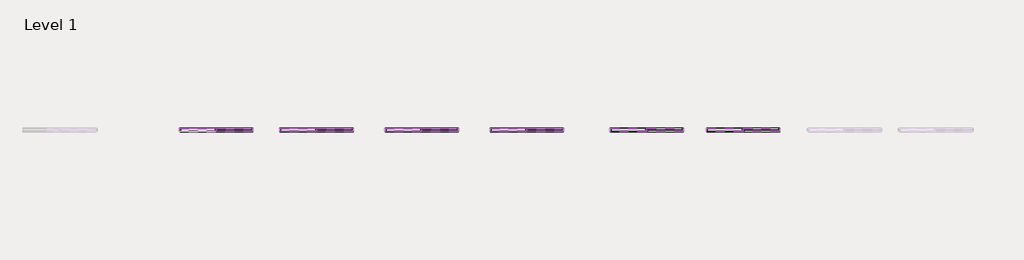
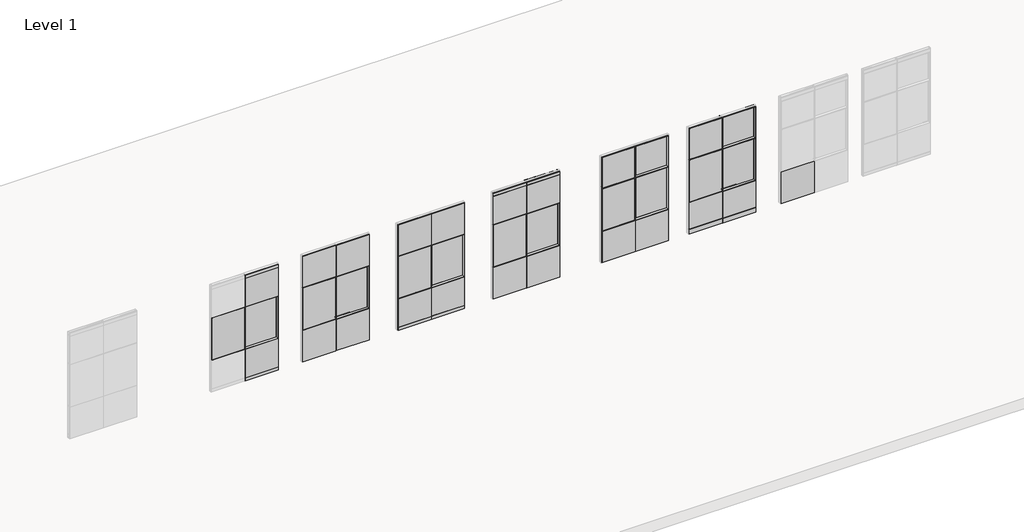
# One storey, part 11 of 22: 107 proxies.
"""IFC4 building model written with IfcOpenShell, lengths in millimetres."""

from ifc_helpers import new_model, si_unit, origin, place, context, project, spatial, transform, mapped, element, save
from components import fascia_teknion_ceiling_and_base_fpb1_0bfeef01, fascia_teknion_ceiling_and_base_fpb1_c09701a2, fascia_teknion_ceiling_and_base_fpb1_836afdf3, fascia_teknion_ceiling_and_base_fpb1_2ed09321, frame_teknion_horizontal_rail_5872ae1a, glass_fascia_6f81bcf7, glass_fascia_75a64c95, level_ii_d7c51a2e, level_ii_6986000c, panel_fascia_teknion_level_i_3c7f3a23, panel_fascia_teknion_level_i_3efb392c, panel_fascia_teknion_level_iii_5cb2406b, panel_fascia_teknion_level_iii_b597021d, panel_fascia_teknion_mid_glass_level_i_6372ec43, panel_fascia_teknion_mid_glass_level_i_aef44225, panel_fascia_teknion_mid_glass_level_i_3173a81b, panel_fascia_teknion_mid_glass_level_i_dc0ea009, working_wall_monolithic_level_i_ddf61f7f, working_wall_monolithic_level_i_0fd3c68e, panel_fascia_teknion_mid_glass_level_i_f6f85d3a, working_wall_monolithic_level_i_49ea217e, panel_fascia_teknion_mid_glass_level_iii_33d6d773, panel_fascia_teknion_mid_glass_level_iii_d39c1b17

model = new_model("IFC4")

# Units and contexts
model_context = context("Model", 3, world=origin())
ifc_project = project(units=[si_unit("LENGTHUNIT", "METRE", prefix="MILLI")], contexts=[model_context])

# Site, building, storey
site = spatial("IfcSite", under=ifc_project)
building = spatial("IfcBuilding", under=site)
storey = spatial("IfcBuildingStorey", under=building, Name="Level 1", Elevation=0.0)

# Proxies
placement = place(None, origin())
fascia_teknion_ceiling_and_base_fpb1_shape = fascia_teknion_ceiling_and_base_fpb1_0bfeef01(model_context)
element("IfcBuildingElementProxy", 1, Name="Fascia-Teknion-Ceiling_and_Base : FPB1", ObjectType="Fascia-Teknion-Ceiling_and_Base : FPB1", at=placement, inside=storey, context=model_context, shape_type="MappedRepresentation", body=[
    mapped(fascia_teknion_ceiling_and_base_fpb1_shape, transform((-10904.901085, 1762.344815, 15.875), x_axis=(1.0, 0.0, 0.0), y_axis=(0.0, 1.0, 0.0), z_axis=(0.0, 0.0, 1.0))),
])
element("IfcBuildingElementProxy", 2, Name="Fascia-Teknion-Ceiling_and_Base : FPB1", ObjectType="Fascia-Teknion-Ceiling_and_Base : FPB1", at=placement, inside=storey, context=model_context, shape_type="MappedRepresentation", body=[
    mapped(fascia_teknion_ceiling_and_base_fpb1_shape, transform((-10004.4909288, 1762.344815, 15.875), x_axis=(1.0, 0.0, 0.0), y_axis=(0.0, 1.0, 0.0), z_axis=(0.0, 0.0, 1.0))),
])
fascia_teknion_ceiling_and_base_fpb1_2_shape = fascia_teknion_ceiling_and_base_fpb1_c09701a2(model_context)
element("IfcBuildingElementProxy", 3, Name="Fascia-Teknion-Ceiling_and_Base : FPB1", ObjectType="Fascia-Teknion-Ceiling_and_Base : FPB1", at=placement, inside=storey, context=model_context, shape_type="MappedRepresentation", body=[
    mapped(fascia_teknion_ceiling_and_base_fpb1_2_shape, transform((-10904.901085, 1862.357315, 15.875), x_axis=(1.0, 0.0, 0.0), y_axis=(0.0, 1.0, 0.0), z_axis=(0.0, 0.0, 1.0))),
])
element("IfcBuildingElementProxy", 4, Name="Fascia-Teknion-Ceiling_and_Base : FPB1", ObjectType="Fascia-Teknion-Ceiling_and_Base : FPB1", at=placement, inside=storey, context=model_context, shape_type="MappedRepresentation", body=[
    mapped(fascia_teknion_ceiling_and_base_fpb1_2_shape, transform((-10004.4909288, 1862.357315, 15.875), x_axis=(1.0, 0.0, 0.0), y_axis=(0.0, 1.0, 0.0), z_axis=(0.0, 0.0, 1.0))),
])
fascia_teknion_ceiling_and_base_fpb1_3_shape = fascia_teknion_ceiling_and_base_fpb1_836afdf3(model_context)
element("IfcBuildingElementProxy", 5, Name="Fascia-Teknion-Ceiling_and_Base : FPB1", ObjectType="Fascia-Teknion-Ceiling_and_Base : FPB1", at=placement, inside=storey, context=model_context, shape_type="MappedRepresentation", body=[
    mapped(fascia_teknion_ceiling_and_base_fpb1_3_shape, transform((-18786.7184902, 1762.344815, 15.875), x_axis=(1.0, 0.0, 0.0), y_axis=(0.0, 1.0, 0.0), z_axis=(0.0, 0.0, 1.0))),
])
element("IfcBuildingElementProxy", 6, Name="Fascia-Teknion-Ceiling_and_Base : FPB1", ObjectType="Fascia-Teknion-Ceiling_and_Base : FPB1", at=placement, inside=storey, context=model_context, shape_type="MappedRepresentation", body=[
    mapped(fascia_teknion_ceiling_and_base_fpb1_3_shape, transform((-22928.208334, 1762.344815, 15.875), x_axis=(1.0, 0.0, 0.0), y_axis=(0.0, 1.0, 0.0), z_axis=(0.0, 0.0, 1.0))),
])
element("IfcBuildingElementProxy", 7, Name="Fascia-Teknion-Ceiling_and_Base : FPB1", ObjectType="Fascia-Teknion-Ceiling_and_Base : FPB1", at=placement, inside=storey, context=model_context, shape_type="MappedRepresentation", body=[
    mapped(fascia_teknion_ceiling_and_base_fpb1_3_shape, transform((-17886.308334, 1762.344815, 15.875), x_axis=(1.0, 0.0, 0.0), y_axis=(0.0, 1.0, 0.0), z_axis=(0.0, 0.0, 1.0))),
])
fascia_teknion_ceiling_and_base_fpb1_4_shape = fascia_teknion_ceiling_and_base_fpb1_2ed09321(model_context)
element("IfcBuildingElementProxy", 8, Name="Fascia-Teknion-Ceiling_and_Base : FPB1", ObjectType="Fascia-Teknion-Ceiling_and_Base : FPB1", at=placement, inside=storey, context=model_context, shape_type="MappedRepresentation", body=[
    mapped(fascia_teknion_ceiling_and_base_fpb1_4_shape, transform((-23828.6184902, 1862.357315, 15.875), x_axis=(1.0, 0.0, 0.0), y_axis=(0.0, 1.0, 0.0), z_axis=(0.0, 0.0, 1.0))),
])
element("IfcBuildingElementProxy", 9, Name="Fascia-Teknion-Ceiling_and_Base : FPB1", ObjectType="Fascia-Teknion-Ceiling_and_Base : FPB1", at=placement, inside=storey, context=model_context, shape_type="MappedRepresentation", body=[
    mapped(fascia_teknion_ceiling_and_base_fpb1_4_shape, transform((-18786.7184902, 1862.357315, 15.875), x_axis=(1.0, 0.0, 0.0), y_axis=(0.0, 1.0, 0.0), z_axis=(0.0, 0.0, 1.0))),
])
element("IfcBuildingElementProxy", 10, Name="Fascia-Teknion-Ceiling_and_Base : FPB1", ObjectType="Fascia-Teknion-Ceiling_and_Base : FPB1", at=placement, inside=storey, context=model_context, shape_type="MappedRepresentation", body=[
    mapped(fascia_teknion_ceiling_and_base_fpb1_4_shape, transform((-22928.208334, 1862.357315, 15.875), x_axis=(1.0, 0.0, 0.0), y_axis=(0.0, 1.0, 0.0), z_axis=(0.0, 0.0, 1.0))),
])
element("IfcBuildingElementProxy", 11, Name="Fascia-Teknion-Ceiling_and_Base : FPB1", ObjectType="Fascia-Teknion-Ceiling_and_Base : FPB1", at=placement, inside=storey, context=model_context, shape_type="MappedRepresentation", body=[
    mapped(fascia_teknion_ceiling_and_base_fpb1_4_shape, transform((-17886.308334, 1862.357315, 15.875), x_axis=(1.0, 0.0, 0.0), y_axis=(0.0, 1.0, 0.0), z_axis=(0.0, 0.0, 1.0))),
])
element("IfcBuildingElementProxy", 12, Name="Fascia-Teknion-Ceiling_and_Base : FPC", ObjectType="Fascia-Teknion-Ceiling_and_Base : FPC", at=placement, inside=storey, context=model_context, shape_type="MappedRepresentation", body=[
    mapped(fascia_teknion_ceiling_and_base_fpb1_3_shape, transform((-16208.6184902, 1762.344815, 2950.845), x_axis=(1.0, 0.0, 0.0), y_axis=(0.0, 1.0, 0.0), z_axis=(0.0, 0.0, 1.0))),
])
element("IfcBuildingElementProxy", 13, Name="Fascia-Teknion-Ceiling_and_Base : FPC", ObjectType="Fascia-Teknion-Ceiling_and_Base : FPC", at=placement, inside=storey, context=model_context, shape_type="MappedRepresentation", body=[
    mapped(fascia_teknion_ceiling_and_base_fpb1_3_shape, transform((-22928.208334, 1762.344815, 2950.845), x_axis=(1.0, 0.0, 0.0), y_axis=(0.0, 1.0, 0.0), z_axis=(0.0, 0.0, 1.0))),
])
element("IfcBuildingElementProxy", 14, Name="Fascia-Teknion-Ceiling_and_Base : FPC", ObjectType="Fascia-Teknion-Ceiling_and_Base : FPC", at=placement, inside=storey, context=model_context, shape_type="MappedRepresentation", body=[
    mapped(fascia_teknion_ceiling_and_base_fpb1_3_shape, transform((-15308.208334, 1762.344815, 2950.845), x_axis=(1.0, 0.0, 0.0), y_axis=(0.0, 1.0, 0.0), z_axis=(0.0, 0.0, 1.0))),
])
element("IfcBuildingElementProxy", 15, Name="Fascia-Teknion-Ceiling_and_Base : FPC", ObjectType="Fascia-Teknion-Ceiling_and_Base : FPC", at=placement, inside=storey, context=model_context, shape_type="MappedRepresentation", body=[
    mapped(fascia_teknion_ceiling_and_base_fpb1_4_shape, transform((-23828.6184902, 1862.357315, 2950.845), x_axis=(1.0, 0.0, 0.0), y_axis=(0.0, 1.0, 0.0), z_axis=(0.0, 0.0, 1.0))),
])
element("IfcBuildingElementProxy", 16, Name="Fascia-Teknion-Ceiling_and_Base : FPC", ObjectType="Fascia-Teknion-Ceiling_and_Base : FPC", at=placement, inside=storey, context=model_context, shape_type="MappedRepresentation", body=[
    mapped(fascia_teknion_ceiling_and_base_fpb1_4_shape, transform((-16208.6184902, 1862.357315, 2950.845), x_axis=(1.0, 0.0, 0.0), y_axis=(0.0, 1.0, 0.0), z_axis=(0.0, 0.0, 1.0))),
])
element("IfcBuildingElementProxy", 17, Name="Fascia-Teknion-Ceiling_and_Base : FPC", ObjectType="Fascia-Teknion-Ceiling_and_Base : FPC", at=placement, inside=storey, context=model_context, shape_type="MappedRepresentation", body=[
    mapped(fascia_teknion_ceiling_and_base_fpb1_4_shape, transform((-22928.208334, 1862.357315, 2950.845), x_axis=(1.0, 0.0, 0.0), y_axis=(0.0, 1.0, 0.0), z_axis=(0.0, 0.0, 1.0))),
])
element("IfcBuildingElementProxy", 18, Name="Fascia-Teknion-Ceiling_and_Base : FPC", ObjectType="Fascia-Teknion-Ceiling_and_Base : FPC", at=placement, inside=storey, context=model_context, shape_type="MappedRepresentation", body=[
    mapped(fascia_teknion_ceiling_and_base_fpb1_4_shape, transform((-15308.208334, 1862.357315, 2950.845), x_axis=(1.0, 0.0, 0.0), y_axis=(0.0, 1.0, 0.0), z_axis=(0.0, 0.0, 1.0))),
])
frame_teknion_horizontal_rail_shape = frame_teknion_horizontal_rail_5872ae1a(model_context)
element("IfcBuildingElementProxy", 19, Name="Frame-Teknion-Horizontal_Rail : FPKK", ObjectType="Frame-Teknion-Horizontal_Rail : FPKK", at=placement, inside=storey, context=model_context, shape_type="MappedRepresentation", body=[
    mapped(frame_teknion_horizontal_rail_shape, transform((-21364.8184902, 1812.351065, 917.575), x_axis=(1.0, 0.0, 0.0), y_axis=(0.0, 1.0, 0.0), z_axis=(0.0, 0.0, 1.0))),
])
element("IfcBuildingElementProxy", 20, Name="Frame-Teknion-Horizontal_Rail : FPKK", ObjectType="Frame-Teknion-Horizontal_Rail : FPKK", at=placement, inside=storey, context=model_context, shape_type="MappedRepresentation", body=[
    mapped(frame_teknion_horizontal_rail_shape, transform((-21364.8184902, 1812.351065, 2136.775), x_axis=(1.0, 0.0, 0.0), y_axis=(0.0, 1.0, 0.0), z_axis=(0.0, 0.0, 1.0))),
])
element("IfcBuildingElementProxy", 21, Name="Frame-Teknion-Horizontal_Rail : FPKK", ObjectType="Frame-Teknion-Horizontal_Rail : FPKK", at=placement, inside=storey, context=model_context, shape_type="MappedRepresentation", body=[
    mapped(frame_teknion_horizontal_rail_shape, transform((-18786.7184902, 1812.351065, 917.575), x_axis=(1.0, 0.0, 0.0), y_axis=(0.0, 1.0, 0.0), z_axis=(0.0, 0.0, 1.0))),
])
element("IfcBuildingElementProxy", 22, Name="Frame-Teknion-Horizontal_Rail : FPKK", ObjectType="Frame-Teknion-Horizontal_Rail : FPKK", at=placement, inside=storey, context=model_context, shape_type="MappedRepresentation", body=[
    mapped(frame_teknion_horizontal_rail_shape, transform((-18786.7184902, 1812.351065, 2136.775), x_axis=(1.0, 0.0, 0.0), y_axis=(0.0, 1.0, 0.0), z_axis=(0.0, 0.0, 1.0))),
])
element("IfcBuildingElementProxy", 23, Name="Frame-Teknion-Horizontal_Rail : FPKK", ObjectType="Frame-Teknion-Horizontal_Rail : FPKK", at=placement, inside=storey, context=model_context, shape_type="MappedRepresentation", body=[
    mapped(frame_teknion_horizontal_rail_shape, transform((-16208.6184902, 1812.351065, 917.575), x_axis=(1.0, 0.0, 0.0), y_axis=(0.0, 1.0, 0.0), z_axis=(0.0, 0.0, 1.0))),
])
element("IfcBuildingElementProxy", 24, Name="Frame-Teknion-Horizontal_Rail : FPKK", ObjectType="Frame-Teknion-Horizontal_Rail : FPKK", at=placement, inside=storey, context=model_context, shape_type="MappedRepresentation", body=[
    mapped(frame_teknion_horizontal_rail_shape, transform((-16208.6184902, 1812.351065, 2136.775), x_axis=(1.0, 0.0, 0.0), y_axis=(0.0, 1.0, 0.0), z_axis=(0.0, 0.0, 1.0))),
])
element("IfcBuildingElementProxy", 25, Name="Frame-Teknion-Horizontal_Rail : FPKK", ObjectType="Frame-Teknion-Horizontal_Rail : FPKK", at=placement, inside=storey, context=model_context, shape_type="MappedRepresentation", body=[
    mapped(frame_teknion_horizontal_rail_shape, transform((-16208.6184902, 1812.351065, 2947.543), x_axis=(1.0, 0.0, 0.0), y_axis=(0.0, 1.0, 0.0), z_axis=(0.0, 0.0, 1.0))),
])
element("IfcBuildingElementProxy", 26, Name="Frame-Teknion-Horizontal_Rail : FPKK", ObjectType="Frame-Teknion-Horizontal_Rail : FPKK", at=placement, inside=storey, context=model_context, shape_type="MappedRepresentation", body=[
    mapped(frame_teknion_horizontal_rail_shape, transform((-22928.208334, 1812.351065, 917.575), x_axis=(1.0, 0.0, 0.0), y_axis=(0.0, 1.0, 0.0), z_axis=(0.0, 0.0, 1.0))),
])
element("IfcBuildingElementProxy", 27, Name="Frame-Teknion-Horizontal_Rail : FPKK", ObjectType="Frame-Teknion-Horizontal_Rail : FPKK", at=placement, inside=storey, context=model_context, shape_type="MappedRepresentation", body=[
    mapped(frame_teknion_horizontal_rail_shape, transform((-22928.208334, 1812.351065, 2136.775), x_axis=(1.0, 0.0, 0.0), y_axis=(0.0, 1.0, 0.0), z_axis=(0.0, 0.0, 1.0))),
])
element("IfcBuildingElementProxy", 28, Name="Frame-Teknion-Horizontal_Rail : FPKK", ObjectType="Frame-Teknion-Horizontal_Rail : FPKK", at=placement, inside=storey, context=model_context, shape_type="MappedRepresentation", body=[
    mapped(frame_teknion_horizontal_rail_shape, transform((-20464.408334, 1812.351065, 917.575), x_axis=(1.0, 0.0, 0.0), y_axis=(0.0, 1.0, 0.0), z_axis=(0.0, 0.0, 1.0))),
])
element("IfcBuildingElementProxy", 29, Name="Frame-Teknion-Horizontal_Rail : FPKK", ObjectType="Frame-Teknion-Horizontal_Rail : FPKK", at=placement, inside=storey, context=model_context, shape_type="MappedRepresentation", body=[
    mapped(frame_teknion_horizontal_rail_shape, transform((-20464.408334, 1812.351065, 2136.775), x_axis=(1.0, 0.0, 0.0), y_axis=(0.0, 1.0, 0.0), z_axis=(0.0, 0.0, 1.0))),
])
element("IfcBuildingElementProxy", 30, Name="Frame-Teknion-Horizontal_Rail : FPKK", ObjectType="Frame-Teknion-Horizontal_Rail : FPKK", at=placement, inside=storey, context=model_context, shape_type="MappedRepresentation", body=[
    mapped(frame_teknion_horizontal_rail_shape, transform((-17886.308334, 1812.351065, 917.575), x_axis=(1.0, 0.0, 0.0), y_axis=(0.0, 1.0, 0.0), z_axis=(0.0, 0.0, 1.0))),
])
element("IfcBuildingElementProxy", 31, Name="Frame-Teknion-Horizontal_Rail : FPKK", ObjectType="Frame-Teknion-Horizontal_Rail : FPKK", at=placement, inside=storey, context=model_context, shape_type="MappedRepresentation", body=[
    mapped(frame_teknion_horizontal_rail_shape, transform((-17886.308334, 1812.351065, 2136.775), x_axis=(1.0, 0.0, 0.0), y_axis=(0.0, 1.0, 0.0), z_axis=(0.0, 0.0, 1.0))),
])
element("IfcBuildingElementProxy", 32, Name="Frame-Teknion-Horizontal_Rail : FPKK", ObjectType="Frame-Teknion-Horizontal_Rail : FPKK", at=placement, inside=storey, context=model_context, shape_type="MappedRepresentation", body=[
    mapped(frame_teknion_horizontal_rail_shape, transform((-15308.208334, 1812.351065, 917.575), x_axis=(1.0, 0.0, 0.0), y_axis=(0.0, 1.0, 0.0), z_axis=(0.0, 0.0, 1.0))),
])
element("IfcBuildingElementProxy", 33, Name="Frame-Teknion-Horizontal_Rail : FPKK", ObjectType="Frame-Teknion-Horizontal_Rail : FPKK", at=placement, inside=storey, context=model_context, shape_type="MappedRepresentation", body=[
    mapped(frame_teknion_horizontal_rail_shape, transform((-15308.208334, 1812.351065, 2136.775), x_axis=(1.0, 0.0, 0.0), y_axis=(0.0, 1.0, 0.0), z_axis=(0.0, 0.0, 1.0))),
])
element("IfcBuildingElementProxy", 34, Name="Frame-Teknion-Horizontal_Rail : FPKK", ObjectType="Frame-Teknion-Horizontal_Rail : FPKK", at=placement, inside=storey, context=model_context, shape_type="MappedRepresentation", body=[
    mapped(frame_teknion_horizontal_rail_shape, transform((-15308.208334, 1812.351065, 2947.543), x_axis=(1.0, 0.0, 0.0), y_axis=(0.0, 1.0, 0.0), z_axis=(0.0, 0.0, 1.0))),
])
element("IfcBuildingElementProxy", 35, Name="Frame-Teknion-Horizontal_Rail : FPKK", ObjectType="Frame-Teknion-Horizontal_Rail : FPKK", at=placement, inside=storey, context=model_context, shape_type="MappedRepresentation", body=[
    mapped(frame_teknion_horizontal_rail_shape, transform((-18786.7184902, 1812.351065, 100.33), x_axis=(1.0, 0.0, 0.0), y_axis=(0.0, 1.0, 0.0), z_axis=(0.0, 0.0, 1.0))),
])
element("IfcBuildingElementProxy", 36, Name="Frame-Teknion-Horizontal_Rail : FPKK", ObjectType="Frame-Teknion-Horizontal_Rail : FPKK", at=placement, inside=storey, context=model_context, shape_type="MappedRepresentation", body=[
    mapped(frame_teknion_horizontal_rail_shape, transform((-17886.308334, 1812.351065, 100.33), x_axis=(1.0, 0.0, 0.0), y_axis=(0.0, 1.0, 0.0), z_axis=(0.0, 0.0, 1.0))),
])
element("IfcBuildingElementProxy", 37, Name="Frame-Teknion-Horizontal_Rail : FPKK", ObjectType="Frame-Teknion-Horizontal_Rail : FPKK", at=placement, inside=storey, context=model_context, shape_type="MappedRepresentation", body=[
    mapped(frame_teknion_horizontal_rail_shape, transform((-13267.101085, 1812.351065, 917.575), x_axis=(1.0, 0.0, 0.0), y_axis=(0.0, 1.0, 0.0), z_axis=(0.0, 0.0, 1.0))),
])
element("IfcBuildingElementProxy", 38, Name="Frame-Teknion-Horizontal_Rail : FPKK", ObjectType="Frame-Teknion-Horizontal_Rail : FPKK", at=placement, inside=storey, context=model_context, shape_type="MappedRepresentation", body=[
    mapped(frame_teknion_horizontal_rail_shape, transform((-13267.101085, 1812.351065, 2136.775), x_axis=(1.0, 0.0, 0.0), y_axis=(0.0, 1.0, 0.0), z_axis=(0.0, 0.0, 1.0))),
])
element("IfcBuildingElementProxy", 39, Name="Frame-Teknion-Horizontal_Rail : FPKK", ObjectType="Frame-Teknion-Horizontal_Rail : FPKK", at=placement, inside=storey, context=model_context, shape_type="MappedRepresentation", body=[
    mapped(frame_teknion_horizontal_rail_shape, transform((-10904.901085, 1812.351065, 100.457), x_axis=(1.0, 0.0, 0.0), y_axis=(0.0, 1.0, 0.0), z_axis=(0.0, 0.0, 1.0))),
])
element("IfcBuildingElementProxy", 40, Name="Frame-Teknion-Horizontal_Rail : FPKK", ObjectType="Frame-Teknion-Horizontal_Rail : FPKK", at=placement, inside=storey, context=model_context, shape_type="MappedRepresentation", body=[
    mapped(frame_teknion_horizontal_rail_shape, transform((-10904.901085, 1812.351065, 917.575), x_axis=(1.0, 0.0, 0.0), y_axis=(0.0, 1.0, 0.0), z_axis=(0.0, 0.0, 1.0))),
])
element("IfcBuildingElementProxy", 41, Name="Frame-Teknion-Horizontal_Rail : FPKK", ObjectType="Frame-Teknion-Horizontal_Rail : FPKK", at=placement, inside=storey, context=model_context, shape_type="MappedRepresentation", body=[
    mapped(frame_teknion_horizontal_rail_shape, transform((-10904.901085, 1812.351065, 2136.775), x_axis=(1.0, 0.0, 0.0), y_axis=(0.0, 1.0, 0.0), z_axis=(0.0, 0.0, 1.0))),
])
element("IfcBuildingElementProxy", 42, Name="Frame-Teknion-Horizontal_Rail : FPKK", ObjectType="Frame-Teknion-Horizontal_Rail : FPKK", at=placement, inside=storey, context=model_context, shape_type="MappedRepresentation", body=[
    mapped(frame_teknion_horizontal_rail_shape, transform((-10904.901085, 1812.351065, 151.257), x_axis=(1.0, 0.0, 0.0), y_axis=(0.0, 1.0, 0.0), z_axis=(0.0, 0.0, 1.0))),
])
element("IfcBuildingElementProxy", 43, Name="Frame-Teknion-Horizontal_Rail : FPKK", ObjectType="Frame-Teknion-Horizontal_Rail : FPKK", at=placement, inside=storey, context=model_context, shape_type="MappedRepresentation", body=[
    mapped(frame_teknion_horizontal_rail_shape, transform((-8415.701085, 1812.351065, 917.575), x_axis=(1.0, 0.0, 0.0), y_axis=(0.0, 1.0, 0.0), z_axis=(0.0, 0.0, 1.0))),
])
element("IfcBuildingElementProxy", 44, Name="Frame-Teknion-Horizontal_Rail : FPKK", ObjectType="Frame-Teknion-Horizontal_Rail : FPKK", at=placement, inside=storey, context=model_context, shape_type="MappedRepresentation", body=[
    mapped(frame_teknion_horizontal_rail_shape, transform((-12366.6909288, 1812.351065, 917.575), x_axis=(1.0, 0.0, 0.0), y_axis=(0.0, 1.0, 0.0), z_axis=(0.0, 0.0, 1.0))),
])
element("IfcBuildingElementProxy", 45, Name="Frame-Teknion-Horizontal_Rail : FPKK", ObjectType="Frame-Teknion-Horizontal_Rail : FPKK", at=placement, inside=storey, context=model_context, shape_type="MappedRepresentation", body=[
    mapped(frame_teknion_horizontal_rail_shape, transform((-12366.6909288, 1812.351065, 2136.775), x_axis=(1.0, 0.0, 0.0), y_axis=(0.0, 1.0, 0.0), z_axis=(0.0, 0.0, 1.0))),
])
element("IfcBuildingElementProxy", 46, Name="Frame-Teknion-Horizontal_Rail : FPKK", ObjectType="Frame-Teknion-Horizontal_Rail : FPKK", at=placement, inside=storey, context=model_context, shape_type="MappedRepresentation", body=[
    mapped(frame_teknion_horizontal_rail_shape, transform((-10004.4909288, 1812.351065, 100.457), x_axis=(1.0, 0.0, 0.0), y_axis=(0.0, 1.0, 0.0), z_axis=(0.0, 0.0, 1.0))),
])
element("IfcBuildingElementProxy", 47, Name="Frame-Teknion-Horizontal_Rail : FPKK", ObjectType="Frame-Teknion-Horizontal_Rail : FPKK", at=placement, inside=storey, context=model_context, shape_type="MappedRepresentation", body=[
    mapped(frame_teknion_horizontal_rail_shape, transform((-10004.4909288, 1812.351065, 917.575), x_axis=(1.0, 0.0, 0.0), y_axis=(0.0, 1.0, 0.0), z_axis=(0.0, 0.0, 1.0))),
])
element("IfcBuildingElementProxy", 48, Name="Frame-Teknion-Horizontal_Rail : FPKK", ObjectType="Frame-Teknion-Horizontal_Rail : FPKK", at=placement, inside=storey, context=model_context, shape_type="MappedRepresentation", body=[
    mapped(frame_teknion_horizontal_rail_shape, transform((-10004.4909288, 1812.351065, 2136.775), x_axis=(1.0, 0.0, 0.0), y_axis=(0.0, 1.0, 0.0), z_axis=(0.0, 0.0, 1.0))),
])
element("IfcBuildingElementProxy", 49, Name="Frame-Teknion-Horizontal_Rail : FPKK", ObjectType="Frame-Teknion-Horizontal_Rail : FPKK", at=placement, inside=storey, context=model_context, shape_type="MappedRepresentation", body=[
    mapped(frame_teknion_horizontal_rail_shape, transform((-10004.4909288, 1812.351065, 151.257), x_axis=(1.0, 0.0, 0.0), y_axis=(0.0, 1.0, 0.0), z_axis=(0.0, 0.0, 1.0))),
])
element("IfcBuildingElementProxy", 50, Name="Frame-Teknion-Horizontal_Rail : FPKK", ObjectType="Frame-Teknion-Horizontal_Rail : FPKK", at=placement, inside=storey, context=model_context, shape_type="MappedRepresentation", body=[
    mapped(frame_teknion_horizontal_rail_shape, transform((-22928.208334, 1812.351065, 97.282), x_axis=(1.0, 0.0, 0.0), y_axis=(0.0, 1.0, 0.0), z_axis=(0.0, 0.0, 1.0))),
])
element("IfcBuildingElementProxy", 51, Name="Frame-Teknion-Horizontal_Rail : FPKK", ObjectType="Frame-Teknion-Horizontal_Rail : FPKK", at=placement, inside=storey, context=model_context, shape_type="MappedRepresentation", body=[
    mapped(frame_teknion_horizontal_rail_shape, transform((-22928.208334, 1812.351065, 2947.67), x_axis=(1.0, 0.0, 0.0), y_axis=(0.0, 1.0, 0.0), z_axis=(0.0, 0.0, 1.0))),
])
element("IfcBuildingElementProxy", 52, Name="Frame-Teknion-Horizontal_Rail : FPKK", ObjectType="Frame-Teknion-Horizontal_Rail : FPKK", at=placement, inside=storey, context=model_context, shape_type="MappedRepresentation", body=[
    mapped(frame_teknion_horizontal_rail_shape, transform((-23828.6184902, 1812.351065, 97.282), x_axis=(1.0, 0.0, 0.0), y_axis=(0.0, 1.0, 0.0), z_axis=(0.0, 0.0, 1.0))),
])
element("IfcBuildingElementProxy", 53, Name="Frame-Teknion-Horizontal_Rail : FPKK", ObjectType="Frame-Teknion-Horizontal_Rail : FPKK", at=placement, inside=storey, context=model_context, shape_type="MappedRepresentation", body=[
    mapped(frame_teknion_horizontal_rail_shape, transform((-23828.6184902, 1812.351065, 2947.67), x_axis=(1.0, 0.0, 0.0), y_axis=(0.0, 1.0, 0.0), z_axis=(0.0, 0.0, 1.0))),
])
glass_fascia_shape = glass_fascia_6f81bcf7(model_context)
element("IfcBuildingElementProxy", 54, Name="Panel-Fascia-Teknion-Altos-Glass : Glass Fascia", ObjectType="Panel-Fascia-Teknion-Altos-Glass : Glass Fascia", at=placement, inside=storey, context=model_context, shape_type="MappedRepresentation", body=[
    mapped(glass_fascia_shape, transform((-13267.101085, 1812.351065, 2136.775), x_axis=(1.0, 0.0, 0.0), y_axis=(0.0, 1.0, 0.0), z_axis=(0.0, 0.0, 1.0))),
])
element("IfcBuildingElementProxy", 55, Name="Panel-Fascia-Teknion-Altos-Glass : Glass Fascia", ObjectType="Panel-Fascia-Teknion-Altos-Glass : Glass Fascia", at=placement, inside=storey, context=model_context, shape_type="MappedRepresentation", body=[
    mapped(glass_fascia_shape, transform((-10904.901085, 1812.351065, 2136.775), x_axis=(1.0, 0.0, 0.0), y_axis=(0.0, 1.0, 0.0), z_axis=(0.0, 0.0, 1.0))),
])
glass_fascia_2_shape = glass_fascia_75a64c95(model_context)
element("IfcBuildingElementProxy", 56, Name="Panel-Fascia-Teknion-Altos-Glass : Glass Fascia", ObjectType="Panel-Fascia-Teknion-Altos-Glass : Glass Fascia", at=placement, inside=storey, context=model_context, shape_type="MappedRepresentation", body=[
    mapped(glass_fascia_2_shape, transform((-12366.6909288, 1812.351065, 2136.775), x_axis=(1.0, 0.0, 0.0), y_axis=(0.0, 1.0, 0.0), z_axis=(0.0, 0.0, 1.0))),
])
element("IfcBuildingElementProxy", 57, Name="Panel-Fascia-Teknion-Altos-Glass : Glass Fascia", ObjectType="Panel-Fascia-Teknion-Altos-Glass : Glass Fascia", at=placement, inside=storey, context=model_context, shape_type="MappedRepresentation", body=[
    mapped(glass_fascia_2_shape, transform((-10004.4909288, 1812.351065, 2136.775), x_axis=(1.0, 0.0, 0.0), y_axis=(0.0, 1.0, 0.0), z_axis=(0.0, 0.0, 1.0))),
])
level_ii_shape = level_ii_d7c51a2e(model_context)
element("IfcBuildingElementProxy", 58, Name="Panel-Fascia-Teknion-Altos-Mid_Glass : Level II", ObjectType="Panel-Fascia-Teknion-Altos-Mid_Glass : Level II", at=placement, inside=storey, context=model_context, shape_type="MappedRepresentation", body=[
    mapped(level_ii_shape, transform((-23828.6184902, 1812.351065, 917.575), x_axis=(1.0, 0.0, 0.0), y_axis=(0.0, 1.0, 0.0), z_axis=(0.0, 0.0, 1.0))),
])
element("IfcBuildingElementProxy", 59, Name="Panel-Fascia-Teknion-Altos-Mid_Glass : Level II", ObjectType="Panel-Fascia-Teknion-Altos-Mid_Glass : Level II", at=placement, inside=storey, context=model_context, shape_type="MappedRepresentation", body=[
    mapped(level_ii_shape, transform((-21364.8184902, 1812.351065, 917.575), x_axis=(1.0, 0.0, 0.0), y_axis=(0.0, 1.0, 0.0), z_axis=(0.0, 0.0, 1.0))),
])
element("IfcBuildingElementProxy", 60, Name="Panel-Fascia-Teknion-Altos-Mid_Glass : Level II", ObjectType="Panel-Fascia-Teknion-Altos-Mid_Glass : Level II", at=placement, inside=storey, context=model_context, shape_type="MappedRepresentation", body=[
    mapped(level_ii_shape, transform((-18786.7184902, 1812.351065, 917.575), x_axis=(1.0, 0.0, 0.0), y_axis=(0.0, 1.0, 0.0), z_axis=(0.0, 0.0, 1.0))),
])
element("IfcBuildingElementProxy", 61, Name="Panel-Fascia-Teknion-Altos-Mid_Glass : Level II", ObjectType="Panel-Fascia-Teknion-Altos-Mid_Glass : Level II", at=placement, inside=storey, context=model_context, shape_type="MappedRepresentation", body=[
    mapped(level_ii_shape, transform((-16208.6184902, 1812.351065, 917.575), x_axis=(1.0, 0.0, 0.0), y_axis=(0.0, 1.0, 0.0), z_axis=(0.0, 0.0, 1.0))),
])
element("IfcBuildingElementProxy", 62, Name="Panel-Fascia-Teknion-Altos-Mid_Glass : Level II", ObjectType="Panel-Fascia-Teknion-Altos-Mid_Glass : Level II", at=placement, inside=storey, context=model_context, shape_type="MappedRepresentation", body=[
    mapped(level_ii_shape, transform((-13267.101085, 1812.351065, 917.575), x_axis=(1.0, 0.0, 0.0), y_axis=(0.0, 1.0, 0.0), z_axis=(0.0, 0.0, 1.0))),
])
element("IfcBuildingElementProxy", 63, Name="Panel-Fascia-Teknion-Altos-Mid_Glass : Level II", ObjectType="Panel-Fascia-Teknion-Altos-Mid_Glass : Level II", at=placement, inside=storey, context=model_context, shape_type="MappedRepresentation", body=[
    mapped(level_ii_shape, transform((-10904.901085, 1812.351065, 917.575), x_axis=(1.0, 0.0, 0.0), y_axis=(0.0, 1.0, 0.0), z_axis=(0.0, 0.0, 1.0))),
])
level_ii_2_shape = level_ii_6986000c(model_context)
element("IfcBuildingElementProxy", 64, Name="Panel-Fascia-Teknion-Altos-Mid_Glass : Level II", ObjectType="Panel-Fascia-Teknion-Altos-Mid_Glass : Level II", at=placement, inside=storey, context=model_context, shape_type="MappedRepresentation", body=[
    mapped(level_ii_2_shape, transform((-22928.208334, 1812.351065, 917.575), x_axis=(1.0, 0.0, 0.0), y_axis=(0.0, 1.0, 0.0), z_axis=(0.0, 0.0, 1.0))),
])
element("IfcBuildingElementProxy", 65, Name="Panel-Fascia-Teknion-Altos-Mid_Glass : Level II", ObjectType="Panel-Fascia-Teknion-Altos-Mid_Glass : Level II", at=placement, inside=storey, context=model_context, shape_type="MappedRepresentation", body=[
    mapped(level_ii_2_shape, transform((-20464.408334, 1812.351065, 917.575), x_axis=(1.0, 0.0, 0.0), y_axis=(0.0, 1.0, 0.0), z_axis=(0.0, 0.0, 1.0))),
])
element("IfcBuildingElementProxy", 66, Name="Panel-Fascia-Teknion-Altos-Mid_Glass : Level II", ObjectType="Panel-Fascia-Teknion-Altos-Mid_Glass : Level II", at=placement, inside=storey, context=model_context, shape_type="MappedRepresentation", body=[
    mapped(level_ii_2_shape, transform((-17886.308334, 1812.351065, 917.575), x_axis=(1.0, 0.0, 0.0), y_axis=(0.0, 1.0, 0.0), z_axis=(0.0, 0.0, 1.0))),
])
element("IfcBuildingElementProxy", 67, Name="Panel-Fascia-Teknion-Altos-Mid_Glass : Level II", ObjectType="Panel-Fascia-Teknion-Altos-Mid_Glass : Level II", at=placement, inside=storey, context=model_context, shape_type="MappedRepresentation", body=[
    mapped(level_ii_2_shape, transform((-15308.208334, 1812.351065, 917.575), x_axis=(1.0, 0.0, 0.0), y_axis=(0.0, 1.0, 0.0), z_axis=(0.0, 0.0, 1.0))),
])
element("IfcBuildingElementProxy", 68, Name="Panel-Fascia-Teknion-Altos-Mid_Glass : Level II", ObjectType="Panel-Fascia-Teknion-Altos-Mid_Glass : Level II", at=placement, inside=storey, context=model_context, shape_type="MappedRepresentation", body=[
    mapped(level_ii_2_shape, transform((-12366.6909288, 1812.351065, 917.575), x_axis=(1.0, 0.0, 0.0), y_axis=(0.0, 1.0, 0.0), z_axis=(0.0, 0.0, 1.0))),
])
element("IfcBuildingElementProxy", 69, Name="Panel-Fascia-Teknion-Altos-Mid_Glass : Level II", ObjectType="Panel-Fascia-Teknion-Altos-Mid_Glass : Level II", at=placement, inside=storey, context=model_context, shape_type="MappedRepresentation", body=[
    mapped(level_ii_2_shape, transform((-10004.4909288, 1812.351065, 917.575), x_axis=(1.0, 0.0, 0.0), y_axis=(0.0, 1.0, 0.0), z_axis=(0.0, 0.0, 1.0))),
])
panel_fascia_teknion_level_i_shape = panel_fascia_teknion_level_i_3c7f3a23(model_context)
element("IfcBuildingElementProxy", 70, Name="Panel-Fascia-Teknion : Level I", ObjectType="Panel-Fascia-Teknion : Level I", at=placement, inside=storey, context=model_context, shape_type="MappedRepresentation", body=[
    mapped(panel_fascia_teknion_level_i_shape, transform((-22928.208334, 1771.869815, 100.457), x_axis=(1.0, 0.0, 0.0), y_axis=(0.0, 1.0, 0.0), z_axis=(0.0, 0.0, 1.0))),
])
panel_fascia_teknion_level_i_2_shape = panel_fascia_teknion_level_i_3efb392c(model_context)
element("IfcBuildingElementProxy", 71, Name="Panel-Fascia-Teknion : Level I", ObjectType="Panel-Fascia-Teknion : Level I", at=placement, inside=storey, context=model_context, shape_type="MappedRepresentation", body=[
    mapped(panel_fascia_teknion_level_i_2_shape, transform((-22928.208334, 1852.832315, 100.457), x_axis=(1.0, 0.0, 0.0), y_axis=(0.0, 1.0, 0.0), z_axis=(0.0, 0.0, 1.0))),
])
panel_fascia_teknion_level_iii_shape = panel_fascia_teknion_level_iii_5cb2406b(model_context)
element("IfcBuildingElementProxy", 72, Name="Panel-Fascia-Teknion : Level III", ObjectType="Panel-Fascia-Teknion : Level III", at=placement, inside=storey, context=model_context, shape_type="MappedRepresentation", body=[
    mapped(panel_fascia_teknion_level_iii_shape, transform((-22928.208334, 1771.869815, 2136.775), x_axis=(1.0, 0.0, 0.0), y_axis=(0.0, 1.0, 0.0), z_axis=(0.0, 0.0, 1.0))),
])
panel_fascia_teknion_level_iii_2_shape = panel_fascia_teknion_level_iii_b597021d(model_context)
element("IfcBuildingElementProxy", 73, Name="Panel-Fascia-Teknion : Level III", ObjectType="Panel-Fascia-Teknion : Level III", at=placement, inside=storey, context=model_context, shape_type="MappedRepresentation", body=[
    mapped(panel_fascia_teknion_level_iii_2_shape, transform((-22928.208334, 1852.832315, 2136.775), x_axis=(1.0, 0.0, 0.0), y_axis=(0.0, 1.0, 0.0), z_axis=(0.0, 0.0, 1.0))),
])
panel_fascia_teknion_mid_glass_level_i_shape = panel_fascia_teknion_mid_glass_level_i_6372ec43(model_context)
element("IfcBuildingElementProxy", 74, Name="Panel-Fascia-Teknion-Mid_Glass : Level I", ObjectType="Panel-Fascia-Teknion-Mid_Glass : Level I", at=placement, inside=storey, context=model_context, shape_type="MappedRepresentation", body=[
    mapped(panel_fascia_teknion_mid_glass_level_i_shape, transform((-21364.8184902, 1771.869815, 15.875), x_axis=(1.0, 0.0, 0.0), y_axis=(0.0, 1.0, 0.0), z_axis=(0.0, 0.0, 1.0))),
])
element("IfcBuildingElementProxy", 75, Name="Panel-Fascia-Teknion-Mid_Glass : Level I", ObjectType="Panel-Fascia-Teknion-Mid_Glass : Level I", at=placement, inside=storey, context=model_context, shape_type="MappedRepresentation", body=[
    mapped(panel_fascia_teknion_mid_glass_level_i_shape, transform((-20464.408334, 1771.869815, 15.875), x_axis=(1.0, 0.0, 0.0), y_axis=(0.0, 1.0, 0.0), z_axis=(0.0, 0.0, 1.0))),
])
panel_fascia_teknion_mid_glass_level_i_2_shape = panel_fascia_teknion_mid_glass_level_i_aef44225(model_context)
element("IfcBuildingElementProxy", 76, Name="Panel-Fascia-Teknion-Mid_Glass : Level I", ObjectType="Panel-Fascia-Teknion-Mid_Glass : Level I", at=placement, inside=storey, context=model_context, shape_type="MappedRepresentation", body=[
    mapped(panel_fascia_teknion_mid_glass_level_i_2_shape, transform((-21364.8184902, 1852.832315, 12.7), x_axis=(1.0, 0.0, 0.0), y_axis=(0.0, 1.0, 0.0), z_axis=(0.0, 0.0, 1.0))),
])
element("IfcBuildingElementProxy", 77, Name="Panel-Fascia-Teknion-Mid_Glass : Level I", ObjectType="Panel-Fascia-Teknion-Mid_Glass : Level I", at=placement, inside=storey, context=model_context, shape_type="MappedRepresentation", body=[
    mapped(panel_fascia_teknion_mid_glass_level_i_2_shape, transform((-16208.6184902, 1852.832315, 12.7), x_axis=(1.0, 0.0, 0.0), y_axis=(0.0, 1.0, 0.0), z_axis=(0.0, 0.0, 1.0))),
])
element("IfcBuildingElementProxy", 78, Name="Panel-Fascia-Teknion-Mid_Glass : Level I", ObjectType="Panel-Fascia-Teknion-Mid_Glass : Level I", at=placement, inside=storey, context=model_context, shape_type="MappedRepresentation", body=[
    mapped(panel_fascia_teknion_mid_glass_level_i_2_shape, transform((-20464.408334, 1852.832315, 12.7), x_axis=(1.0, 0.0, 0.0), y_axis=(0.0, 1.0, 0.0), z_axis=(0.0, 0.0, 1.0))),
])
element("IfcBuildingElementProxy", 79, Name="Panel-Fascia-Teknion-Mid_Glass : Level I", ObjectType="Panel-Fascia-Teknion-Mid_Glass : Level I", at=placement, inside=storey, context=model_context, shape_type="MappedRepresentation", body=[
    mapped(panel_fascia_teknion_mid_glass_level_i_2_shape, transform((-15308.208334, 1852.832315, 12.7), x_axis=(1.0, 0.0, 0.0), y_axis=(0.0, 1.0, 0.0), z_axis=(0.0, 0.0, 1.0))),
])
element("IfcBuildingElementProxy", 80, Name="Panel-Fascia-Teknion-Mid_Glass : Level I", ObjectType="Panel-Fascia-Teknion-Mid_Glass : Level I", at=placement, inside=storey, context=model_context, shape_type="MappedRepresentation", body=[
    mapped(panel_fascia_teknion_level_i_shape, transform((-18786.7184902, 1771.869815, 100.457), x_axis=(1.0, 0.0, 0.0), y_axis=(0.0, 1.0, 0.0), z_axis=(0.0, 0.0, 1.0))),
])
element("IfcBuildingElementProxy", 81, Name="Panel-Fascia-Teknion-Mid_Glass : Level I", ObjectType="Panel-Fascia-Teknion-Mid_Glass : Level I", at=placement, inside=storey, context=model_context, shape_type="MappedRepresentation", body=[
    mapped(panel_fascia_teknion_level_i_shape, transform((-17886.308334, 1771.869815, 100.457), x_axis=(1.0, 0.0, 0.0), y_axis=(0.0, 1.0, 0.0), z_axis=(0.0, 0.0, 1.0))),
])
element("IfcBuildingElementProxy", 82, Name="Panel-Fascia-Teknion-Mid_Glass : Level I", ObjectType="Panel-Fascia-Teknion-Mid_Glass : Level I", at=placement, inside=storey, context=model_context, shape_type="MappedRepresentation", body=[
    mapped(panel_fascia_teknion_level_i_2_shape, transform((-18786.7184902, 1852.832315, 100.457), x_axis=(1.0, 0.0, 0.0), y_axis=(0.0, 1.0, 0.0), z_axis=(0.0, 0.0, 1.0))),
])
element("IfcBuildingElementProxy", 83, Name="Panel-Fascia-Teknion-Mid_Glass : Level I", ObjectType="Panel-Fascia-Teknion-Mid_Glass : Level I", at=placement, inside=storey, context=model_context, shape_type="MappedRepresentation", body=[
    mapped(panel_fascia_teknion_level_i_2_shape, transform((-17886.308334, 1852.832315, 100.457), x_axis=(1.0, 0.0, 0.0), y_axis=(0.0, 1.0, 0.0), z_axis=(0.0, 0.0, 1.0))),
])
panel_fascia_teknion_mid_glass_level_i_3_shape = panel_fascia_teknion_mid_glass_level_i_3173a81b(model_context)
element("IfcBuildingElementProxy", 84, Name="Panel-Fascia-Teknion-Mid_Glass : Level I", ObjectType="Panel-Fascia-Teknion-Mid_Glass : Level I", at=placement, inside=storey, context=model_context, shape_type="MappedRepresentation", body=[
    mapped(panel_fascia_teknion_mid_glass_level_i_3_shape, transform((-16208.6184902, 1771.869815, 12.7), x_axis=(1.0, 0.0, 0.0), y_axis=(0.0, 1.0, 0.0), z_axis=(0.0, 0.0, 1.0))),
])
element("IfcBuildingElementProxy", 85, Name="Panel-Fascia-Teknion-Mid_Glass : Level I", ObjectType="Panel-Fascia-Teknion-Mid_Glass : Level I", at=placement, inside=storey, context=model_context, shape_type="MappedRepresentation", body=[
    mapped(panel_fascia_teknion_mid_glass_level_i_3_shape, transform((-15308.208334, 1771.869815, 12.7), x_axis=(1.0, 0.0, 0.0), y_axis=(0.0, 1.0, 0.0), z_axis=(0.0, 0.0, 1.0))),
])
panel_fascia_teknion_mid_glass_level_i_4_shape = panel_fascia_teknion_mid_glass_level_i_dc0ea009(model_context)
element("IfcBuildingElementProxy", 86, Name="Panel-Fascia-Teknion-Mid_Glass : Level I", ObjectType="Panel-Fascia-Teknion-Mid_Glass : Level I", at=placement, inside=storey, context=model_context, shape_type="MappedRepresentation", body=[
    mapped(panel_fascia_teknion_mid_glass_level_i_4_shape, transform((-13267.101085, 1771.869815, 15.875), x_axis=(1.0, 0.0, 0.0), y_axis=(0.0, 1.0, 0.0), z_axis=(0.0, 0.0, 1.0))),
])
element("IfcBuildingElementProxy", 87, Name="Panel-Fascia-Teknion-Mid_Glass : Level I", ObjectType="Panel-Fascia-Teknion-Mid_Glass : Level I", at=placement, inside=storey, context=model_context, shape_type="MappedRepresentation", body=[
    mapped(panel_fascia_teknion_mid_glass_level_i_4_shape, transform((-12366.6909288, 1771.869815, 15.875), x_axis=(1.0, 0.0, 0.0), y_axis=(0.0, 1.0, 0.0), z_axis=(0.0, 0.0, 1.0))),
])
working_wall_monolithic_level_i_shape = working_wall_monolithic_level_i_ddf61f7f(model_context)
element("IfcBuildingElementProxy", 88, Name="Panel-Fascia-Teknion-Mid_Glass : Level I", ObjectType="Panel-Fascia-Teknion-Mid_Glass : Level I", at=placement, inside=storey, context=model_context, shape_type="MappedRepresentation", body=[
    mapped(working_wall_monolithic_level_i_shape, transform((-13267.101085, 1852.832315, 12.7), x_axis=(1.0, 0.0, 0.0), y_axis=(0.0, 1.0, 0.0), z_axis=(0.0, 0.0, 1.0))),
])
element("IfcBuildingElementProxy", 89, Name="Panel-Fascia-Teknion-Mid_Glass : Level I", ObjectType="Panel-Fascia-Teknion-Mid_Glass : Level I", at=placement, inside=storey, context=model_context, shape_type="MappedRepresentation", body=[
    mapped(working_wall_monolithic_level_i_shape, transform((-8415.701085, 1852.832315, 12.7), x_axis=(1.0, 0.0, 0.0), y_axis=(0.0, 1.0, 0.0), z_axis=(0.0, 0.0, 1.0))),
])
element("IfcBuildingElementProxy", 90, Name="Panel-Fascia-Teknion-Mid_Glass : Level I", ObjectType="Panel-Fascia-Teknion-Mid_Glass : Level I", at=placement, inside=storey, context=model_context, shape_type="MappedRepresentation", body=[
    mapped(working_wall_monolithic_level_i_shape, transform((-12366.6909288, 1852.832315, 12.7), x_axis=(1.0, 0.0, 0.0), y_axis=(0.0, 1.0, 0.0), z_axis=(0.0, 0.0, 1.0))),
])
working_wall_monolithic_level_i_2_shape = working_wall_monolithic_level_i_0fd3c68e(model_context)
element("IfcBuildingElementProxy", 91, Name="Panel-Fascia-Teknion-Mid_Glass : Level I", ObjectType="Panel-Fascia-Teknion-Mid_Glass : Level I", at=placement, inside=storey, context=model_context, shape_type="MappedRepresentation", body=[
    mapped(working_wall_monolithic_level_i_2_shape, transform((-10904.901085, 1771.869815, 151.257), x_axis=(1.0, 0.0, 0.0), y_axis=(0.0, 1.0, 0.0), z_axis=(0.0, 0.0, 1.0))),
])
element("IfcBuildingElementProxy", 92, Name="Panel-Fascia-Teknion-Mid_Glass : Level I", ObjectType="Panel-Fascia-Teknion-Mid_Glass : Level I", at=placement, inside=storey, context=model_context, shape_type="MappedRepresentation", body=[
    mapped(working_wall_monolithic_level_i_2_shape, transform((-10004.4909288, 1771.869815, 151.257), x_axis=(1.0, 0.0, 0.0), y_axis=(0.0, 1.0, 0.0), z_axis=(0.0, 0.0, 1.0))),
])
panel_fascia_teknion_mid_glass_level_i_5_shape = panel_fascia_teknion_mid_glass_level_i_f6f85d3a(model_context)
element("IfcBuildingElementProxy", 93, Name="Panel-Fascia-Teknion-Mid_Glass : Level I", ObjectType="Panel-Fascia-Teknion-Mid_Glass : Level I", at=placement, inside=storey, context=model_context, shape_type="MappedRepresentation", body=[
    mapped(panel_fascia_teknion_mid_glass_level_i_5_shape, transform((-10904.901085, 1852.832315, 100.457), x_axis=(1.0, 0.0, 0.0), y_axis=(0.0, 1.0, 0.0), z_axis=(0.0, 0.0, 1.0))),
])
element("IfcBuildingElementProxy", 94, Name="Panel-Fascia-Teknion-Mid_Glass : Level I", ObjectType="Panel-Fascia-Teknion-Mid_Glass : Level I", at=placement, inside=storey, context=model_context, shape_type="MappedRepresentation", body=[
    mapped(panel_fascia_teknion_mid_glass_level_i_5_shape, transform((-10004.4909288, 1852.832315, 100.457), x_axis=(1.0, 0.0, 0.0), y_axis=(0.0, 1.0, 0.0), z_axis=(0.0, 0.0, 1.0))),
])
working_wall_monolithic_level_i_3_shape = working_wall_monolithic_level_i_49ea217e(model_context)
element("IfcBuildingElementProxy", 95, Name="Panel-Fascia-Teknion-Mid_Glass : Level I", ObjectType="Panel-Fascia-Teknion-Mid_Glass : Level I", at=placement, inside=storey, context=model_context, shape_type="MappedRepresentation", body=[
    mapped(working_wall_monolithic_level_i_3_shape, transform((-8415.701085, 1771.869815, 12.7), x_axis=(1.0, 0.0, 0.0), y_axis=(0.0, 1.0, 0.0), z_axis=(0.0, 0.0, 1.0))),
])
panel_fascia_teknion_mid_glass_level_iii_shape = panel_fascia_teknion_mid_glass_level_iii_33d6d773(model_context)
element("IfcBuildingElementProxy", 96, Name="Panel-Fascia-Teknion-Mid_Glass : Level III", ObjectType="Panel-Fascia-Teknion-Mid_Glass : Level III", at=placement, inside=storey, context=model_context, shape_type="MappedRepresentation", body=[
    mapped(panel_fascia_teknion_mid_glass_level_iii_shape, transform((-21364.8184902, 1771.869815, 2136.775), x_axis=(1.0, 0.0, 0.0), y_axis=(0.0, 1.0, 0.0), z_axis=(0.0, 0.0, 1.0))),
])
element("IfcBuildingElementProxy", 97, Name="Panel-Fascia-Teknion-Mid_Glass : Level III", ObjectType="Panel-Fascia-Teknion-Mid_Glass : Level III", at=placement, inside=storey, context=model_context, shape_type="MappedRepresentation", body=[
    mapped(panel_fascia_teknion_mid_glass_level_iii_shape, transform((-18786.7184902, 1771.869815, 2136.775), x_axis=(1.0, 0.0, 0.0), y_axis=(0.0, 1.0, 0.0), z_axis=(0.0, 0.0, 1.0))),
])
element("IfcBuildingElementProxy", 98, Name="Panel-Fascia-Teknion-Mid_Glass : Level III", ObjectType="Panel-Fascia-Teknion-Mid_Glass : Level III", at=placement, inside=storey, context=model_context, shape_type="MappedRepresentation", body=[
    mapped(panel_fascia_teknion_mid_glass_level_iii_shape, transform((-20464.408334, 1771.869815, 2136.775), x_axis=(1.0, 0.0, 0.0), y_axis=(0.0, 1.0, 0.0), z_axis=(0.0, 0.0, 1.0))),
])
element("IfcBuildingElementProxy", 99, Name="Panel-Fascia-Teknion-Mid_Glass : Level III", ObjectType="Panel-Fascia-Teknion-Mid_Glass : Level III", at=placement, inside=storey, context=model_context, shape_type="MappedRepresentation", body=[
    mapped(panel_fascia_teknion_mid_glass_level_iii_shape, transform((-17886.308334, 1771.869815, 2136.775), x_axis=(1.0, 0.0, 0.0), y_axis=(0.0, 1.0, 0.0), z_axis=(0.0, 0.0, 1.0))),
])
panel_fascia_teknion_mid_glass_level_iii_2_shape = panel_fascia_teknion_mid_glass_level_iii_d39c1b17(model_context)
element("IfcBuildingElementProxy", 100, Name="Panel-Fascia-Teknion-Mid_Glass : Level III", ObjectType="Panel-Fascia-Teknion-Mid_Glass : Level III", at=placement, inside=storey, context=model_context, shape_type="MappedRepresentation", body=[
    mapped(panel_fascia_teknion_mid_glass_level_iii_2_shape, transform((-21364.8184902, 1852.832315, 2136.775), x_axis=(1.0, 0.0, 0.0), y_axis=(0.0, 1.0, 0.0), z_axis=(0.0, 0.0, 1.0))),
])
element("IfcBuildingElementProxy", 101, Name="Panel-Fascia-Teknion-Mid_Glass : Level III", ObjectType="Panel-Fascia-Teknion-Mid_Glass : Level III", at=placement, inside=storey, context=model_context, shape_type="MappedRepresentation", body=[
    mapped(panel_fascia_teknion_mid_glass_level_iii_2_shape, transform((-18786.7184902, 1852.832315, 2136.775), x_axis=(1.0, 0.0, 0.0), y_axis=(0.0, 1.0, 0.0), z_axis=(0.0, 0.0, 1.0))),
])
element("IfcBuildingElementProxy", 102, Name="Panel-Fascia-Teknion-Mid_Glass : Level III", ObjectType="Panel-Fascia-Teknion-Mid_Glass : Level III", at=placement, inside=storey, context=model_context, shape_type="MappedRepresentation", body=[
    mapped(panel_fascia_teknion_mid_glass_level_iii_2_shape, transform((-20464.408334, 1852.832315, 2136.775), x_axis=(1.0, 0.0, 0.0), y_axis=(0.0, 1.0, 0.0), z_axis=(0.0, 0.0, 1.0))),
])
element("IfcBuildingElementProxy", 103, Name="Panel-Fascia-Teknion-Mid_Glass : Level III", ObjectType="Panel-Fascia-Teknion-Mid_Glass : Level III", at=placement, inside=storey, context=model_context, shape_type="MappedRepresentation", body=[
    mapped(panel_fascia_teknion_mid_glass_level_iii_2_shape, transform((-17886.308334, 1852.832315, 2136.775), x_axis=(1.0, 0.0, 0.0), y_axis=(0.0, 1.0, 0.0), z_axis=(0.0, 0.0, 1.0))),
])
element("IfcBuildingElementProxy", 104, Name="Panel-Fascia-Teknion-Mid_Glass : Level III", ObjectType="Panel-Fascia-Teknion-Mid_Glass : Level III", at=placement, inside=storey, context=model_context, shape_type="MappedRepresentation", body=[
    mapped(panel_fascia_teknion_level_iii_shape, transform((-16208.6184902, 1771.869815, 2136.775), x_axis=(1.0, 0.0, 0.0), y_axis=(0.0, 1.0, 0.0), z_axis=(0.0, 0.0, 1.0))),
])
element("IfcBuildingElementProxy", 105, Name="Panel-Fascia-Teknion-Mid_Glass : Level III", ObjectType="Panel-Fascia-Teknion-Mid_Glass : Level III", at=placement, inside=storey, context=model_context, shape_type="MappedRepresentation", body=[
    mapped(panel_fascia_teknion_level_iii_shape, transform((-15308.208334, 1771.869815, 2136.775), x_axis=(1.0, 0.0, 0.0), y_axis=(0.0, 1.0, 0.0), z_axis=(0.0, 0.0, 1.0))),
])
element("IfcBuildingElementProxy", 106, Name="Panel-Fascia-Teknion-Mid_Glass : Level III", ObjectType="Panel-Fascia-Teknion-Mid_Glass : Level III", at=placement, inside=storey, context=model_context, shape_type="MappedRepresentation", body=[
    mapped(panel_fascia_teknion_level_iii_2_shape, transform((-16208.6184902, 1852.832315, 2136.775), x_axis=(1.0, 0.0, 0.0), y_axis=(0.0, 1.0, 0.0), z_axis=(0.0, 0.0, 1.0))),
])
element("IfcBuildingElementProxy", 107, Name="Panel-Fascia-Teknion-Mid_Glass : Level III", ObjectType="Panel-Fascia-Teknion-Mid_Glass : Level III", at=placement, inside=storey, context=model_context, shape_type="MappedRepresentation", body=[
    mapped(panel_fascia_teknion_level_iii_2_shape, transform((-15308.208334, 1852.832315, 2136.775), x_axis=(1.0, 0.0, 0.0), y_axis=(0.0, 1.0, 0.0), z_axis=(0.0, 0.0, 1.0))),
])

save(model, "model.ifc")
